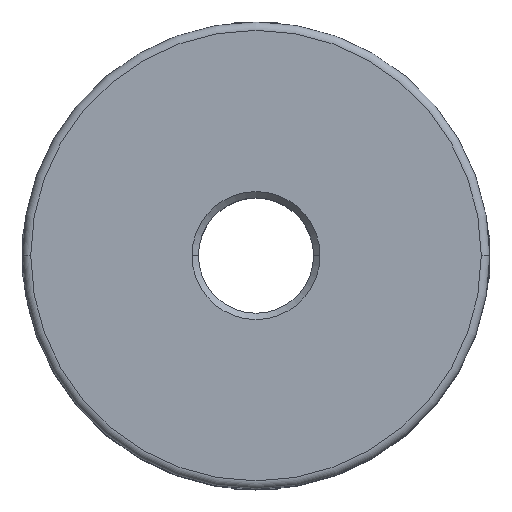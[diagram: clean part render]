
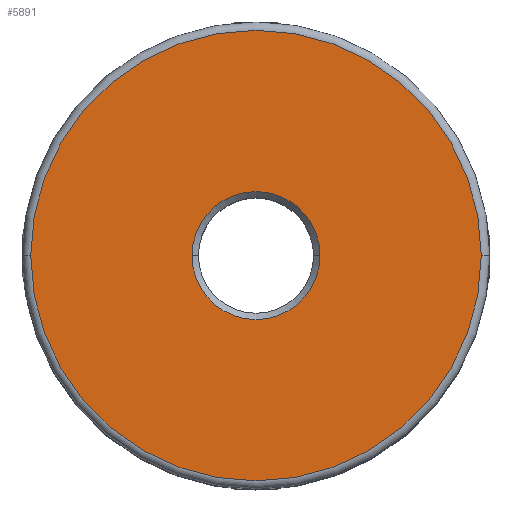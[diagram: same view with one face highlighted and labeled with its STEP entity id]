
A CAD part, top view. The second image highlights one B-rep face of the part: STEP entity #5891.
In plain terms, the highlighted planar face has unit normal (0, 0, 1).
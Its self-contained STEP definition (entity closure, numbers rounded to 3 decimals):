
#198 = CARTESIAN_POINT ( 'NONE',  ( 35.2, 0., 37.75 ) ) ;
#1031 = CIRCLE ( 'NONE', #3984, 10. ) ;
#1039 = CIRCLE ( 'NONE', #3985, 35.2 ) ;
#1244 = CIRCLE ( 'NONE', #4025, 10. ) ;
#1324 = CIRCLE ( 'NONE', #4056, 35.2 ) ;
#2340 = EDGE_CURVE ( 'NONE', #6503, #6583, #1031, .T. ) ;
#2341 = EDGE_CURVE ( 'NONE', #6685, #3215, #1039, .T. ) ;
#3046 = ORIENTED_EDGE ( 'NONE', *, *, #2340, .T. ) ;
#3081 = ORIENTED_EDGE ( 'NONE', *, *, #4332, .T. ) ;
#3093 = ORIENTED_EDGE ( 'NONE', *, *, #4393, .T. ) ;
#3209 = ORIENTED_EDGE ( 'NONE', *, *, #2341, .T. ) ;
#3215 = VERTEX_POINT ( 'NONE', #198 ) ;
#3396 = CARTESIAN_POINT ( 'NONE',  ( 0., 0., 37.75 ) ) ;
#3397 = DIRECTION ( 'NONE',  ( -1., 0., 0. ) ) ;
#3399 = DIRECTION ( 'NONE',  ( 0., 0., 1. ) ) ;
#3402 = DIRECTION ( 'NONE',  ( -1., 0., 0. ) ) ;
#3403 = DIRECTION ( 'NONE',  ( 0., 0., -1. ) ) ;
#3407 = CARTESIAN_POINT ( 'NONE',  ( 0., 0., 37.75 ) ) ;
#3984 = AXIS2_PLACEMENT_3D ( 'NONE', #3407, #3403, #3402 ) ;
#3985 = AXIS2_PLACEMENT_3D ( 'NONE', #3396, #3399, #3397 ) ;
#4025 = AXIS2_PLACEMENT_3D ( 'NONE', #4681, #4682, #4683 ) ;
#4056 = AXIS2_PLACEMENT_3D ( 'NONE', #5009, #5010, #5011 ) ;
#4332 = EDGE_CURVE ( 'NONE', #6583, #6503, #1244, .T. ) ;
#4393 = EDGE_CURVE ( 'NONE', #3215, #6685, #1324, .T. ) ;
#4681 = CARTESIAN_POINT ( 'NONE',  ( 0., 0., 37.75 ) ) ;
#4682 = DIRECTION ( 'NONE',  ( 0., 0., -1. ) ) ;
#4683 = DIRECTION ( 'NONE',  ( -1., 0., 0. ) ) ;
#5009 = CARTESIAN_POINT ( 'NONE',  ( 0., 0., 37.75 ) ) ;
#5010 = DIRECTION ( 'NONE',  ( 0., 0., 1. ) ) ;
#5011 = DIRECTION ( 'NONE',  ( -1., 0., 0. ) ) ;
#5403 = CARTESIAN_POINT ( 'NONE',  ( 0., 0., 37.75 ) ) ;
#5407 = PLANE ( 'NONE',  #5674 ) ;
#5412 = DIRECTION ( 'NONE',  ( 0., 0., -1. ) ) ;
#5413 = DIRECTION ( 'NONE',  ( -1., 0., 0. ) ) ;
#5674 = AXIS2_PLACEMENT_3D ( 'NONE', #5403, #5412, #5413 ) ;
#5891 = ADVANCED_FACE ( 'NONE', ( #6901, #6909 ), #5407, .F. ) ;
#6114 = CARTESIAN_POINT ( 'NONE',  ( -10., 0., 37.75 ) ) ;
#6131 = CARTESIAN_POINT ( 'NONE',  ( 10., 0., 37.75 ) ) ;
#6169 = CARTESIAN_POINT ( 'NONE',  ( -35.2, 0., 37.75 ) ) ;
#6399 = EDGE_LOOP ( 'NONE', ( #3209, #3093 ) ) ;
#6436 = EDGE_LOOP ( 'NONE', ( #3081, #3046 ) ) ;
#6503 = VERTEX_POINT ( 'NONE', #6114 ) ;
#6583 = VERTEX_POINT ( 'NONE', #6131 ) ;
#6685 = VERTEX_POINT ( 'NONE', #6169 ) ;
#6901 = FACE_BOUND ( 'NONE', #6436, .T. ) ;
#6909 = FACE_OUTER_BOUND ( 'NONE', #6399, .T. ) ;
